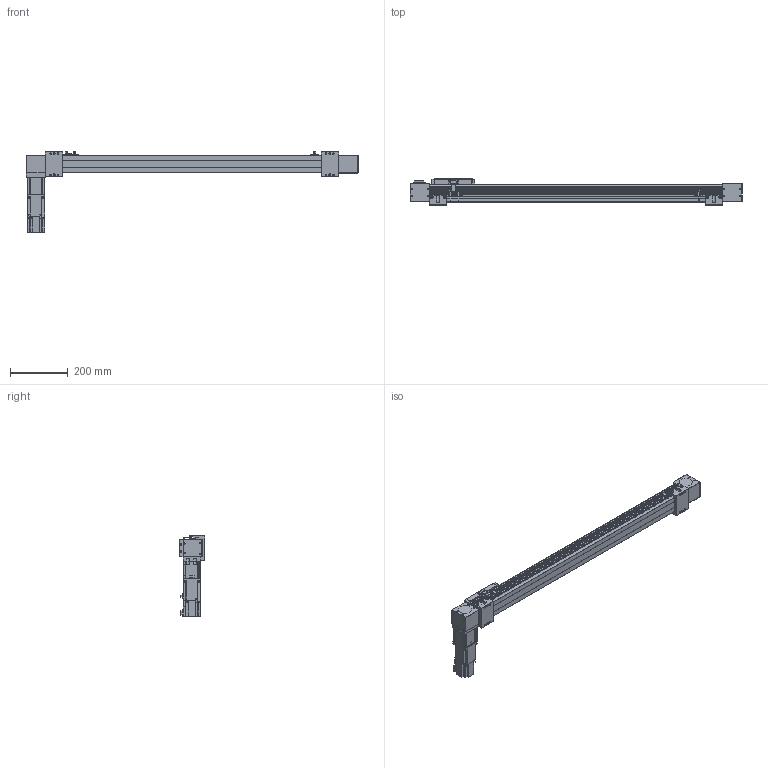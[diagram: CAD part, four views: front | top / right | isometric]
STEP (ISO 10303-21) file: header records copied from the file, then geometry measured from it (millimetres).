
FILE_DESCRIPTION(/* description */ ('STEP AP203'),/* implementation_level */ '2;1');
FILE_NAME(/* name */ 'SK60-P13-S850-BR-T40-C1-N(0)',/* time_stamp */ '2023-04-06T03:59:31+02:00',/* author */ ('License CC BY-ND 4.0'),/* organization */ ('CADENAS'),/* preprocessor_version */ 'ST-DEVELOPER v19.3',/* originating_system */ 'PARTsolutions',/* authorisation */ ' ');
FILE_SCHEMA (('CONFIG_CONTROL_DESIGN'));
Length unit declared in the file: millimetre
Products named in the file (11): SK60-P13-S850-BR-T40-C1-N(0); PSC140-sensor; SK60-S450_seat; SK60-S450-BL-C1_slider; SK60_body3; SK60_body6; SK60-BL_body2; T40-p1; SK60_body5; SK60_body4; SK60-S850-BR-C1_body
Assembly tree (17 placements, depth 2):
  SK60-P13-S850-BR-T40-C1-N(0)
    PSC140-sensor  x3
    SK60-S450_seat  x2
    SK60-S450-BL-C1_slider
    SK60_body3  x3
    SK60_body6  x2
    SK60-BL_body2  x2
    T40-p1
    SK60_body5
    SK60_body4
    SK60-S850-BR-C1_body
Bounding box: 1150 x 90 x 279.1 mm (x, y, z)
Volume: 4496531.8 mm3; surface area: 616544 mm2
Topology: 17 solids, 21 shells, 834 faces, 2109 edges, 1394 vertices
Faces by surface type: plane 544, cylinder 266, cone 22, torus 2
Full cylindrical faces by diameter (mm): 2.8 x3, 3.3 x4, 4.2 x8, 4.5 x26, 4.6 x3, 4.917 x16, 5 x2, 5.478 x4, 5.5 x19, 6.5 x4, 8 x4, 8.5 x4, 9.988 x4, 10 x8, 13.556 x1, 14 x1, 14.586 x1, 19.692 x1, 38.432 x2, 43 x1, 44 x3, 47 x2, 50 x2
Entity records: 19371 total; most frequent: DIRECTION 3292, CARTESIAN_POINT 3289, ORIENTED_EDGE 3050, EDGE_CURVE 1525, AXIS2_PLACEMENT_3D 1100, LINE 1092, VECTOR 1092, VERTEX_POINT 1077
